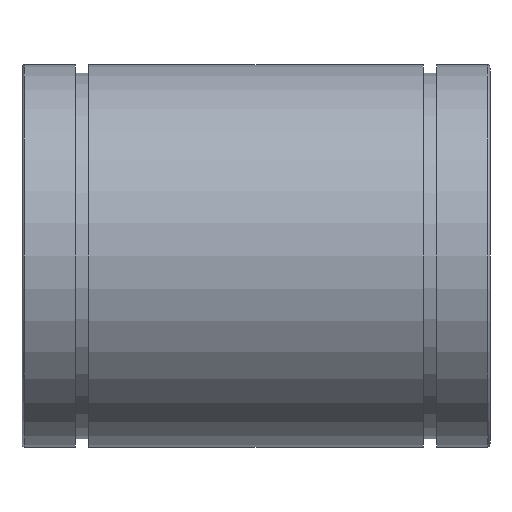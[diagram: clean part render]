
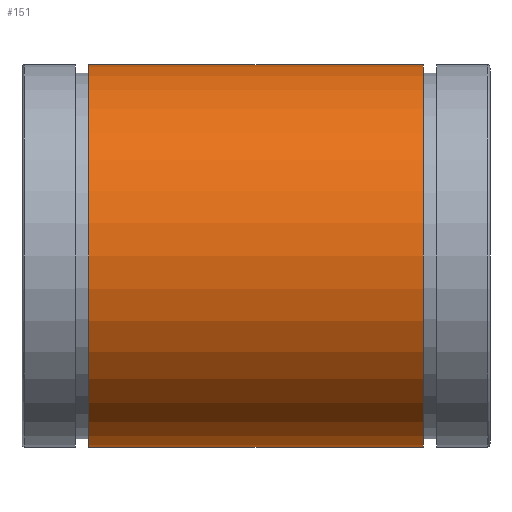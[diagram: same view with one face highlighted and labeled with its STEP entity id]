
A CAD part, front view. The second image highlights one B-rep face of the part: STEP entity #151.
In plain terms, the highlighted cylindrical face has radius 45 mm (diameter 90 mm), a full revolution.
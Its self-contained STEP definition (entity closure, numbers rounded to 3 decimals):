
#117=CARTESIAN_POINT('',(94.35,0.0,45.));
#118=VERTEX_POINT('',#117);
#119=CARTESIAN_POINT('',(94.35,0.0,0.));
#120=DIRECTION('',(-1.0,0.0,0.0));
#121=DIRECTION('',(0.0,0.0,1.0));
#122=AXIS2_PLACEMENT_3D('',#119,#120,#121);
#123=CIRCLE('',#122,45.);
#124=EDGE_CURVE('',#118,#118,#123,.T.);
#132=CARTESIAN_POINT('',(55.,0.0,0.));
#133=DIRECTION('',(-1.0,0.0,0.));
#134=DIRECTION('',(0.0,0.0,1.0));
#135=AXIS2_PLACEMENT_3D('',#132,#133,#134);
#136=CYLINDRICAL_SURFACE('',#135,45.);
#137=CARTESIAN_POINT('',(15.65,0.0,45.));
#138=VERTEX_POINT('',#137);
#139=CARTESIAN_POINT('',(15.65,0.0,0.));
#140=DIRECTION('',(-1.0,0.0,0.0));
#141=DIRECTION('',(0.0,0.0,1.0));
#142=AXIS2_PLACEMENT_3D('',#139,#140,#141);
#143=CIRCLE('',#142,45.);
#144=EDGE_CURVE('',#138,#138,#143,.T.);
#145=ORIENTED_EDGE('',*,*,#144,.F.);
#146=EDGE_LOOP('',(#145));
#147=FACE_OUTER_BOUND('',#146,.T.);
#148=ORIENTED_EDGE('',*,*,#124,.T.);
#149=EDGE_LOOP('',(#148));
#150=FACE_BOUND('',#149,.T.);
#151=ADVANCED_FACE('',(#147,#150),#136,.T.);
